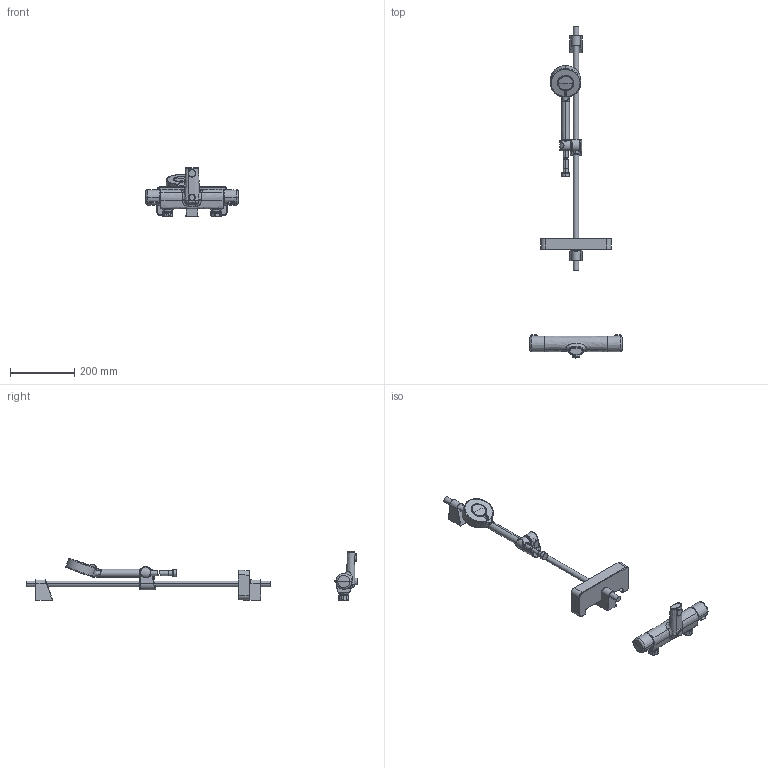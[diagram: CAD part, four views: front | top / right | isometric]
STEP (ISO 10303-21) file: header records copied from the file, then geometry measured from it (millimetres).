
FILE_DESCRIPTION (( 'STEP AP203' ), '1' );
FILE_NAME ('7453(2016).STEP', '2018-07-06T04:41:03', ( '' ), ( '' ), 'SwSTEP 2.0', 'SolidWorks 2016', '' );
FILE_SCHEMA (( 'CONFIG_CONTROL_DESIGN' ));
Products named in the file (1): 7453(2016)
Bounding box: 289.57 x 1033.26 x 150.52 mm (x, y, z)
Volume: 1683335.4 mm3; surface area: 284148.9 mm2
Topology: 21 solids, 21 shells, 652 faces, 1542 edges, 933 vertices
Faces by surface type: bspline 269, cylinder 122, plane 121, torus 60, cone 56, sphere 24
Entity records: 41090 total; most frequent: CARTESIAN_POINT 28253, ORIENTED_EDGE 3044, DIRECTION 2125, EDGE_CURVE 1522, VERTEX_POINT 931, AXIS2_PLACEMENT_3D 920, EDGE_LOOP 671, FACE_OUTER_BOUND 652
